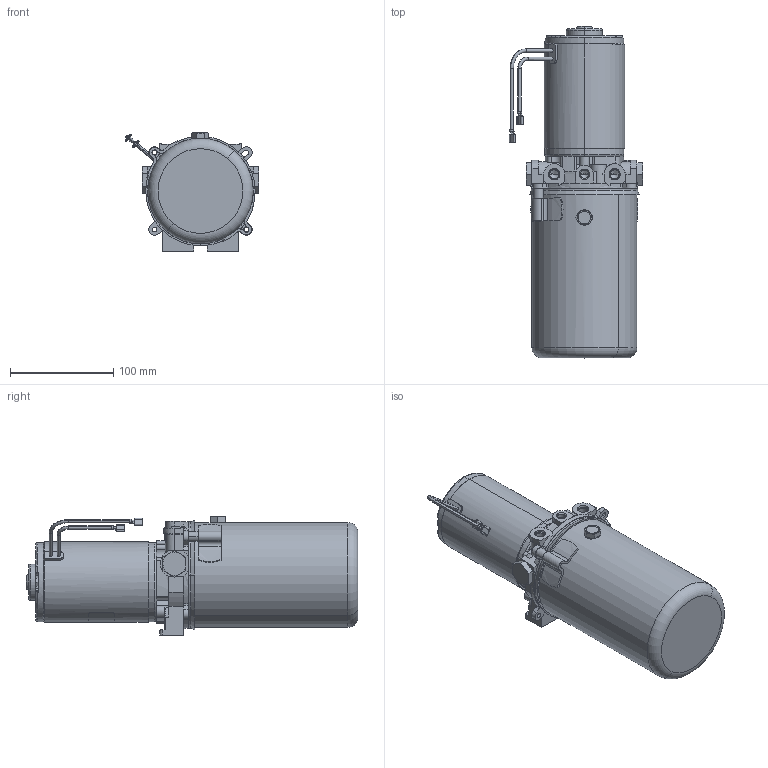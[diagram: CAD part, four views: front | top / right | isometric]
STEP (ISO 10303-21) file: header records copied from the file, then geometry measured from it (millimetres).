
FILE_DESCRIPTION((''),'2;1');
FILE_NAME('108-AE-BE-G_ASM','2005-08-18T',('JPrazak'),('OILDYNE'),'PRO/ENGINEER BY PARAMETRIC TECHNOLOGY CORPORATION, 2004210','PRO/ENGINEER BY PARAMETRIC TECHNOLOGY CORPORATION, 2004210','');
FILE_SCHEMA(('CONFIG_CONTROL_DESIGN'));
Length unit declared in the file: inch
Products named in the file (12): 108_ADAPTER_BLANK; 410497; 361182; 410728; 773764_ASM; 410958; 412051; 774452_AF0; 409069; 774452_ASM; 410210; 108-AE-BE-G_ASM
Assembly tree (14 placements, depth 3):
  108-AE-BE-G_ASM
    108_ADAPTER_BLANK
    410497
    773764_ASM  x2
      361182
      410728
    410958
    412051  x2
    774452_ASM
      774452_AF0
      409069  x2
    410210
Bounding box: 129.37 x 321.06 x 114.46 mm (x, y, z)
Volume: 877313.3 mm3; surface area: 227697.8 mm2
Topology: 13 solids, 13 shells, 839 faces, 2147 edges, 1371 vertices
Faces by surface type: plane 361, cylinder 323, cone 114, torus 36, bspline 5
Entity records: 25916 total; most frequent: CARTESIAN_POINT 6216, DIRECTION 4163, ORIENTED_EDGE 4026, EDGE_CURVE 2013, AXIS2_PLACEMENT_3D 1538, VERTEX_POINT 1295, VECTOR 1087, LINE 1087
